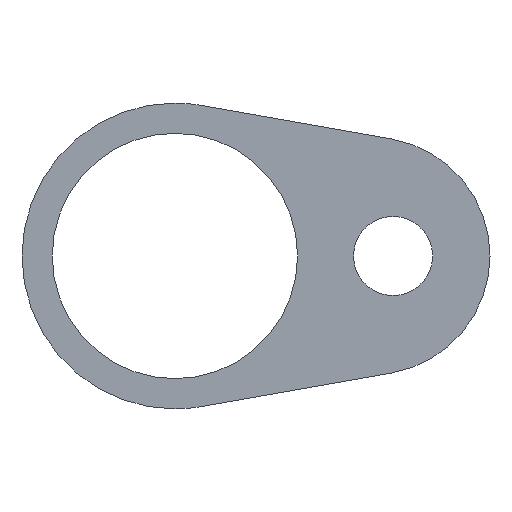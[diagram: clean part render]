
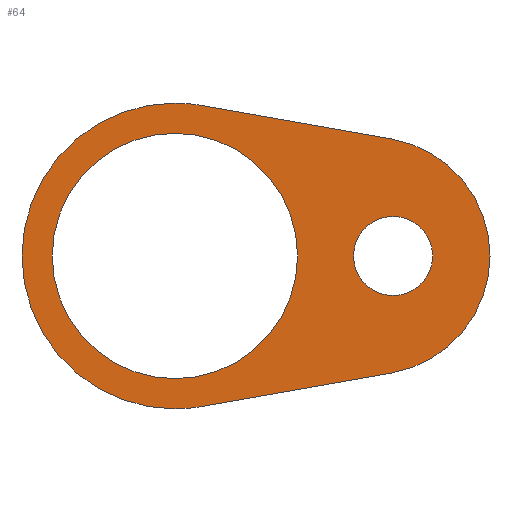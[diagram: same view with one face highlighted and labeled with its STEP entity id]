
A CAD part, front view. The second image highlights one B-rep face of the part: STEP entity #64.
In plain terms, the highlighted planar face has unit normal (0, -1, 0).
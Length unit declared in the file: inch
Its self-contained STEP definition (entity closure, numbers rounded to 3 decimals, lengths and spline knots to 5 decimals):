
#5 = AXIS2_PLACEMENT_3D ( 'NONE', #100, #99, #98 ) ;
#6 = EDGE_CURVE ( 'NONE', #120, #119, #427, .T. ) ;
#8 = AXIS2_PLACEMENT_3D ( 'NONE', #138, #270, #171 ) ;
#14 = AXIS2_PLACEMENT_3D ( 'NONE', #216, #278, #226 ) ;
#15 = AXIS2_PLACEMENT_3D ( 'NONE', #208, #232, #267 ) ;
#17 = AXIS2_PLACEMENT_3D ( 'NONE', #253, #215, #235 ) ;
#19 = AXIS2_PLACEMENT_3D ( 'NONE', #257, #234, #243 ) ;
#20 = AXIS2_PLACEMENT_3D ( 'NONE', #228, #259, #230 ) ;
#23 = AXIS2_PLACEMENT_3D ( 'NONE', #260, #250, #238 ) ;
#35 = DIRECTION ( 'NONE',  ( -0.985, 0., -0.174 ) ) ;
#55 = CARTESIAN_POINT ( 'NONE',  ( 0.13631, 0., -0.77307 ) ) ;
#64 = ADVANCED_FACE ( 'NONE', ( #415, #410, #408 ), #199, .F. ) ;
#81 = AXIS2_PLACEMENT_3D ( 'NONE', #263, #273, #217 ) ;
#98 = DIRECTION ( 'NONE',  ( 0., 0., 1. ) ) ;
#99 = DIRECTION ( 'NONE',  ( 0., 1., 0. ) ) ;
#100 = CARTESIAN_POINT ( 'NONE',  ( 0., 0., 0. ) ) ;
#106 = VERTEX_POINT ( 'NONE', #139 ) ;
#109 = VERTEX_POINT ( 'NONE', #248 ) ;
#110 = VERTEX_POINT ( 'NONE', #283 ) ;
#113 = VERTEX_POINT ( 'NONE', #282 ) ;
#115 = VERTEX_POINT ( 'NONE', #254 ) ;
#119 = VERTEX_POINT ( 'NONE', #275 ) ;
#120 = VERTEX_POINT ( 'NONE', #221 ) ;
#125 = VERTEX_POINT ( 'NONE', #245 ) ;
#126 = VERTEX_POINT ( 'NONE', #219 ) ;
#127 = VERTEX_POINT ( 'NONE', #206 ) ;
#133 = DIRECTION ( 'NONE',  ( 0.985, 0., -0.174 ) ) ;
#138 = CARTESIAN_POINT ( 'NONE',  ( 0., 0., 0. ) ) ;
#139 = CARTESIAN_POINT ( 'NONE',  ( 0.13631, 0., 0.77307 ) ) ;
#171 = DIRECTION ( 'NONE',  ( 0., 0., 1. ) ) ;
#199 = PLANE ( 'NONE',  #8 ) ;
#206 = CARTESIAN_POINT ( 'NONE',  ( 1.11371, 0., -0.60073 ) ) ;
#208 = CARTESIAN_POINT ( 'NONE',  ( 0., 0., 0. ) ) ;
#215 = DIRECTION ( 'NONE',  ( 0., 1., 0. ) ) ;
#216 = CARTESIAN_POINT ( 'NONE',  ( 0., 0., 0. ) ) ;
#217 = DIRECTION ( 'NONE',  ( 0., 0., 1. ) ) ;
#219 = CARTESIAN_POINT ( 'NONE',  ( 0.13631, 0., -0.77307 ) ) ;
#221 = CARTESIAN_POINT ( 'NONE',  ( 0., 0., -0.62992 ) ) ;
#226 = DIRECTION ( 'NONE',  ( 0., 0., 1. ) ) ;
#228 = CARTESIAN_POINT ( 'NONE',  ( 1.12, 0., 0. ) ) ;
#230 = DIRECTION ( 'NONE',  ( 0., 0., 1. ) ) ;
#232 = DIRECTION ( 'NONE',  ( 0., 1., 0. ) ) ;
#234 = DIRECTION ( 'NONE',  ( 0., 1., 0. ) ) ;
#235 = DIRECTION ( 'NONE',  ( 0., 0., 1. ) ) ;
#238 = DIRECTION ( 'NONE',  ( 0., 0., 1. ) ) ;
#243 = DIRECTION ( 'NONE',  ( 0., 0., 1. ) ) ;
#245 = CARTESIAN_POINT ( 'NONE',  ( 1.11371, 0., 0.60073 ) ) ;
#248 = CARTESIAN_POINT ( 'NONE',  ( 0., 0., 0.785 ) ) ;
#250 = DIRECTION ( 'NONE',  ( 0., 1., 0. ) ) ;
#253 = CARTESIAN_POINT ( 'NONE',  ( 1.00778, 0., 0. ) ) ;
#254 = CARTESIAN_POINT ( 'NONE',  ( 1.12, 0., -0.203 ) ) ;
#257 = CARTESIAN_POINT ( 'NONE',  ( 0., 0., 0. ) ) ;
#259 = DIRECTION ( 'NONE',  ( 0., 1., 0. ) ) ;
#260 = CARTESIAN_POINT ( 'NONE',  ( 0., 0., 0. ) ) ;
#263 = CARTESIAN_POINT ( 'NONE',  ( 1.12, 0., 0. ) ) ;
#267 = DIRECTION ( 'NONE',  ( 0., 0., 1. ) ) ;
#270 = DIRECTION ( 'NONE',  ( 0., 1., 0. ) ) ;
#273 = DIRECTION ( 'NONE',  ( 0., 1., 0. ) ) ;
#275 = CARTESIAN_POINT ( 'NONE',  ( 0., 0., 0.62992 ) ) ;
#278 = DIRECTION ( 'NONE',  ( 0., 1., 0. ) ) ;
#279 = CARTESIAN_POINT ( 'NONE',  ( 0.13631, 0., 0.77307 ) ) ;
#282 = CARTESIAN_POINT ( 'NONE',  ( 1.12, 0., 0.203 ) ) ;
#283 = CARTESIAN_POINT ( 'NONE',  ( 0., 0., -0.785 ) ) ;
#288 = LINE ( 'NONE', #279, #332 ) ;
#300 = EDGE_CURVE ( 'NONE', #125, #127, #366, .T. ) ;
#302 = EDGE_CURVE ( 'NONE', #115, #113, #357, .T. ) ;
#305 = EDGE_CURVE ( 'NONE', #109, #106, #350, .T. ) ;
#306 = EDGE_CURVE ( 'NONE', #119, #120, #348, .T. ) ;
#313 = EDGE_CURVE ( 'NONE', #126, #110, #370, .T. ) ;
#316 = EDGE_CURVE ( 'NONE', #110, #109, #364, .T. ) ;
#327 = EDGE_CURVE ( 'NONE', #113, #115, #337, .T. ) ;
#328 = EDGE_CURVE ( 'NONE', #106, #125, #288, .T. ) ;
#330 = EDGE_CURVE ( 'NONE', #127, #126, #365, .T. ) ;
#332 = VECTOR ( 'NONE', #133, 39.37008 ) ;
#333 = VECTOR ( 'NONE', #35, 39.37008 ) ;
#337 = CIRCLE ( 'NONE', #81, 0.203 ) ;
#348 = CIRCLE ( 'NONE', #23, 0.62992 ) ;
#350 = CIRCLE ( 'NONE', #19, 0.785 ) ;
#357 = CIRCLE ( 'NONE', #20, 0.203 ) ;
#364 = CIRCLE ( 'NONE', #15, 0.785 ) ;
#365 = LINE ( 'NONE', #55, #333 ) ;
#366 = CIRCLE ( 'NONE', #17, 0.61 ) ;
#370 = CIRCLE ( 'NONE', #14, 0.785 ) ;
#408 = FACE_BOUND ( 'NONE', #451, .T. ) ;
#410 = FACE_OUTER_BOUND ( 'NONE', #453, .T. ) ;
#415 = FACE_BOUND ( 'NONE', #447, .T. ) ;
#427 = CIRCLE ( 'NONE', #5, 0.62992 ) ;
#447 = EDGE_LOOP ( 'NONE', ( #486, #487 ) ) ;
#451 = EDGE_LOOP ( 'NONE', ( #494, #495 ) ) ;
#453 = EDGE_LOOP ( 'NONE', ( #488, #489, #490, #491, #492, #493 ) ) ;
#486 = ORIENTED_EDGE ( 'NONE', *, *, #6, .T. ) ;
#487 = ORIENTED_EDGE ( 'NONE', *, *, #306, .T. ) ;
#488 = ORIENTED_EDGE ( 'NONE', *, *, #313, .F. ) ;
#489 = ORIENTED_EDGE ( 'NONE', *, *, #330, .F. ) ;
#490 = ORIENTED_EDGE ( 'NONE', *, *, #300, .F. ) ;
#491 = ORIENTED_EDGE ( 'NONE', *, *, #328, .F. ) ;
#492 = ORIENTED_EDGE ( 'NONE', *, *, #305, .F. ) ;
#493 = ORIENTED_EDGE ( 'NONE', *, *, #316, .F. ) ;
#494 = ORIENTED_EDGE ( 'NONE', *, *, #302, .T. ) ;
#495 = ORIENTED_EDGE ( 'NONE', *, *, #327, .T. ) ;
